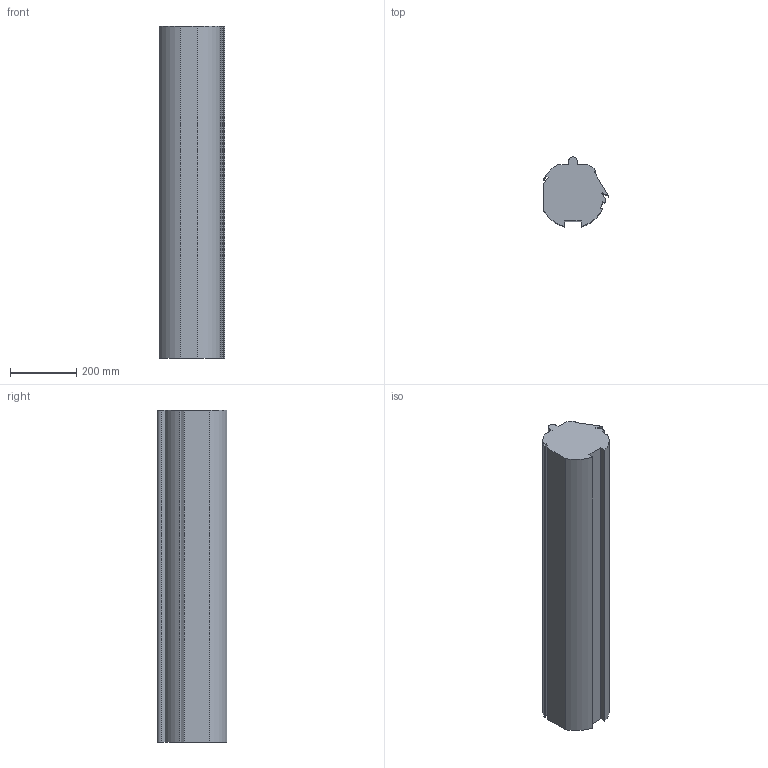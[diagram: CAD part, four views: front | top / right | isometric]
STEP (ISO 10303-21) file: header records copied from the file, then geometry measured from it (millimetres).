
FILE_DESCRIPTION((''),'2;1');
FILE_NAME('APS_300-10','2022-05-25T14:55:03',('Tomas Bellgran'),(''),'CREO PARAMETRIC BY PTC INC, 2018260','CREO PARAMETRIC BY PTC INC, 2018260','');
FILE_SCHEMA(('AUTOMOTIVE_DESIGN { 1 0 10303 214 1 1 1 1 }'));
Length unit declared in the file: millimetre
Products named in the file (1): APS_300-10
Bounding box: 198.36 x 209.69 x 1000 mm (x, y, z)
Volume: 28874504.2 mm3; surface area: 846069.9 mm2
Topology: 1 solids, 1 shells, 32 faces, 90 edges, 60 vertices
Faces by surface type: plane 21, cylinder 11
Entity records: 1620 total; most frequent: CARTESIAN_POINT 193, DIRECTION 189, ORIENTED_EDGE 180, PRESENTATION_STYLE_ASSIGNMENT 91, STYLED_ITEM 91, CURVE_STYLE 90, EDGE_CURVE 90, VECTOR 68
